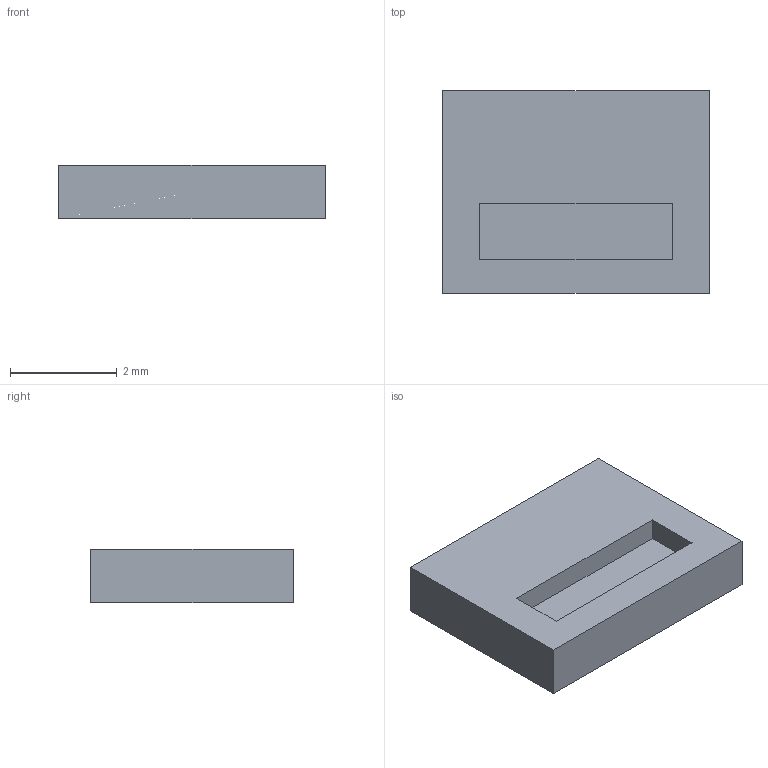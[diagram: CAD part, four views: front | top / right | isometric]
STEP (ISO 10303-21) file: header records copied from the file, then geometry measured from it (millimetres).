
FILE_DESCRIPTION(('Open CASCADE Model'),'2;1');
FILE_NAME('Open CASCADE Shape Model','2026-09-03T12:36:49',('Author'),( 'Open CASCADE'),'Open CASCADE STEP processor 7.9','Open CASCADE 7.9' ,'Unknown');
FILE_SCHEMA(('AUTOMOTIVE_DESIGN { 1 0 10303 214 1 1 1 1 }'));
Length unit declared in the file: millimetre
Products named in the file (1): Open CASCADE STEP translator 7.9 6
Bounding box: 5 x 3.8 x 1 mm (x, y, z)
Volume: 17.4 mm3; surface area: 59.6 mm2
Topology: 1 solids, 1 shells, 11 faces, 24 edges, 16 vertices
Faces by surface type: plane 11
Entity records: 616 total; most frequent: CARTESIAN_POINT 104, DIRECTION 92, LINE 68, VECTOR 68, ORIENTED_EDGE 48, PCURVE 48, DEFINITIONAL_REPRESENTATION 48, EDGE_CURVE 24
